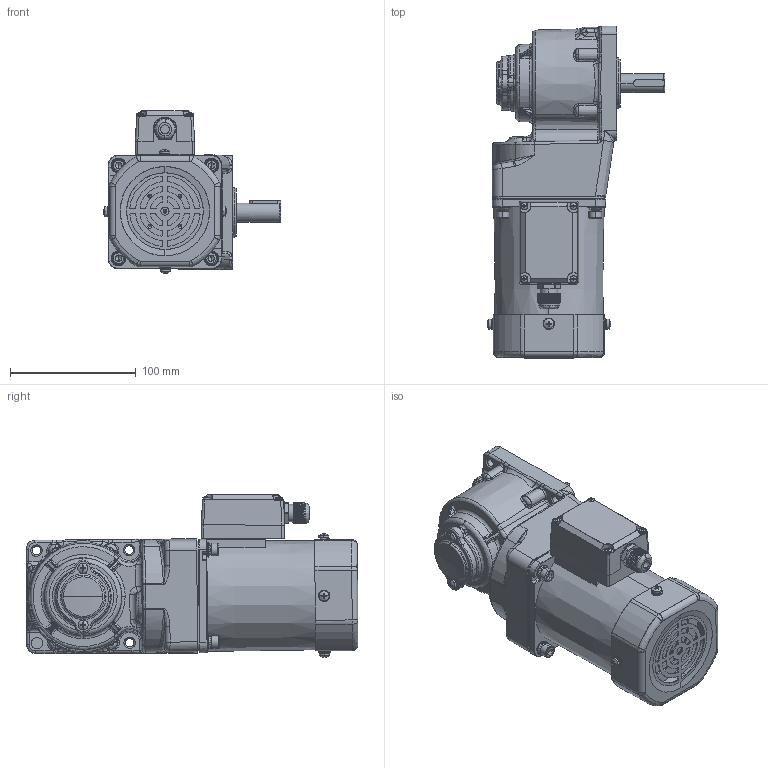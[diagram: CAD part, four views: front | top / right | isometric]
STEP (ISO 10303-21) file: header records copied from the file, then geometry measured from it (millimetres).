
FILE_DESCRIPTION (( 'STEP AP203' ), '1' );
FILE_NAME ('5IK60GU-CFT(5GU3RT-180RT)ÐÂ.STEP', '2023-08-17T07:13:39', ( 'Windows User' ), ( 'P R C' ), 'SwSTEP 2.0', 'SolidWorks 2019', '' );
FILE_SCHEMA (( 'CONFIG_CONTROL_DESIGN' ));
Length unit declared in the file: millimetre
Products named in the file (10): 5IK60GU-CFT(5GU3RT-180RT)^5IK60GU-CFT(5GU3RT-180RT)ÐÂ(2)_5IK60GU-CFT(5GU3RT-180RT)ÐÂ; 5IK60GU-CFT(5GU3RT-180RT)陔; ZD-5GU50RC-505-003______^5IK60GU-CFT(5GU3RT-180RT)陔(2)_5IK60GU-CFT(5GU3RT-180RT)陔; 90____^5IK60GU-CFT(5GU3RT-180RT)陔(2)_5IK60GU-CFT(5GU3RT-180RT)陔; cross recessed pan head screws gb_GB_CROSS_SCREWS_TYPE1 M4X6-6  H type-N^5IK60GU-CFT(5GU3RT-180RT)ÐÂ(2)_5IK60GU-CFT(5GU3RT-180RT)ÐÂ; 5IK60GU-CFT(5GU3RT-180RT)陔(2)^5IK60GU-CFT(5GU3RT-180RT)陔; zd-5gu-50rc-504-001m#________ 2021-12-07 - ____^5IK60GU-CFT(5GU3RT-180RT)ÐÂ(2)_5IK60GU-CFT(5GU3RT-180RT)ÐÂ; 90RT____________^5IK60GU-CFT(5GU3RT-180RT)陔(2)_5IK60GU-CFT(5GU3RT-180RT)陔; 90__________^5IK60GU-CFT(5GU3RT-180RT)陔(2)_5IK60GU-CFT(5GU3RT-180RT)陔; hexagon socket head cap screws gb_GB_FASTENER_SCREWS_HSHCS M5X12-N^5IK60GU-CFT(5GU3RT-180RT)ÐÂ(2)_5IK60GU-CFT(5GU3RT-180RT)ÐÂ
Assembly tree (13 placements, depth 3):
  5IK60GU-CFT(5GU3RT-180RT)陔
    5IK60GU-CFT(5GU3RT-180RT)陔(2)^5IK60GU-CFT(5GU3RT-180RT)陔
      zd-5gu-50rc-504-001m#________ 2021-12-07 - ____^5IK60GU-CFT(5GU3RT-180RT)ÐÂ(2)_5IK60GU-CFT(5GU3RT-180RT)ÐÂ
      90__________^5IK60GU-CFT(5GU3RT-180RT)陔(2)_5IK60GU-CFT(5GU3RT-180RT)陔
      90____^5IK60GU-CFT(5GU3RT-180RT)陔(2)_5IK60GU-CFT(5GU3RT-180RT)陔
      ZD-5GU50RC-505-003______^5IK60GU-CFT(5GU3RT-180RT)陔(2)_5IK60GU-CFT(5GU3RT-180RT)陔
      90RT____________^5IK60GU-CFT(5GU3RT-180RT)陔(2)_5IK60GU-CFT(5GU3RT-180RT)陔
      hexagon socket head cap screws gb_GB_FASTENER_SCREWS_HSHCS M5X12-N^5IK60GU-CFT(5GU3RT-180RT)ÐÂ(2)_5IK60GU-CFT(5GU3RT-180RT)ÐÂ  x4
      cross recessed pan head screws gb_GB_CROSS_SCREWS_TYPE1 M4X6-6  H type-N^5IK60GU-CFT(5GU3RT-180RT)ÐÂ(2)_5IK60GU-CFT(5GU3RT-180RT)ÐÂ  x2
      5IK60GU-CFT(5GU3RT-180RT)^5IK60GU-CFT(5GU3RT-180RT)ÐÂ(2)_5IK60GU-CFT(5GU3RT-180RT)ÐÂ
Bounding box: 141.06 x 263.46 x 129.18 mm (x, y, z)
Volume: 906430.9 mm3; surface area: 222657 mm2
Topology: 39 solids, 51 shells, 2953 faces, 7356 edges, 4443 vertices
Faces by surface type: cylinder 820, plane 791, cone 684, bspline 555, torus 93, sphere 10
Entity records: 121213 total; most frequent: CARTESIAN_POINT 59230, ORIENTED_EDGE 13962, DIRECTION 11040, EDGE_CURVE 6983, AXIS2_PLACEMENT_3D 4446, VERTEX_POINT 4301, EDGE_LOOP 3014, FACE_OUTER_BOUND 2853
